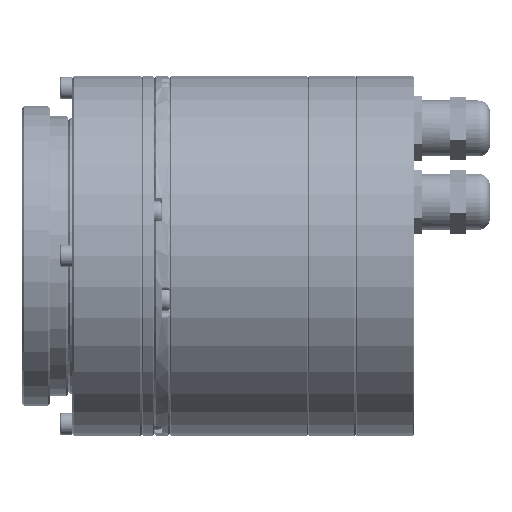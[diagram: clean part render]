
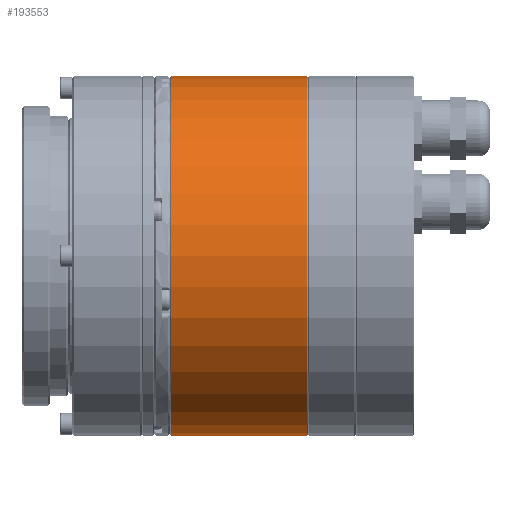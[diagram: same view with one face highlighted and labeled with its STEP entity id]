
A CAD part, left-side view. The second image highlights one B-rep face of the part: STEP entity #193553.
In plain terms, the highlighted cylindrical face has radius 45 mm (diameter 90 mm), a partial arc.
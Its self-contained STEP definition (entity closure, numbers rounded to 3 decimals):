
#10435 = VERTEX_POINT ( 'NONE', #149453 ) ;
#11006 = EDGE_CURVE ( 'NONE', #124256, #87586, #112534, .T. ) ;
#35856 = DIRECTION ( 'NONE',  ( -1., 0., 0. ) ) ;
#46078 = AXIS2_PLACEMENT_3D ( 'NONE', #71598, #157400, #115232 ) ;
#51801 = EDGE_CURVE ( 'NONE', #10435, #84917, #121729, .T. ) ;
#55392 = CARTESIAN_POINT ( 'NONE',  ( 34.2, 0., -45. ) ) ;
#55619 = DIRECTION ( 'NONE',  ( -1., 0., 0. ) ) ;
#55867 = EDGE_CURVE ( 'NONE', #84917, #87586, #105856, .T. ) ;
#59620 = VECTOR ( 'NONE', #257483, 1000. ) ;
#71598 = CARTESIAN_POINT ( 'NONE',  ( 0., 0., 0. ) ) ;
#82270 = CARTESIAN_POINT ( 'NONE',  ( 0., 0., 45. ) ) ;
#82608 = ORIENTED_EDGE ( 'NONE', *, *, #163342, .T. ) ;
#84917 = VERTEX_POINT ( 'NONE', #176226 ) ;
#87003 = VECTOR ( 'NONE', #55619, 1000. ) ;
#87586 = VERTEX_POINT ( 'NONE', #233118 ) ;
#105856 = CIRCLE ( 'NONE', #200071, 45. ) ;
#112534 = LINE ( 'NONE', #171640, #59620 ) ;
#115232 = DIRECTION ( 'NONE',  ( 0., 0., 1. ) ) ;
#121729 = LINE ( 'NONE', #82270, #87003 ) ;
#124256 = VERTEX_POINT ( 'NONE', #55392 ) ;
#147139 = EDGE_LOOP ( 'NONE', ( #241690, #82608, #260011, #204217 ) ) ;
#149453 = CARTESIAN_POINT ( 'NONE',  ( 34.2, 0., 45. ) ) ;
#155128 = DIRECTION ( 'NONE',  ( 0., 0., -1. ) ) ;
#157400 = DIRECTION ( 'NONE',  ( -1., 0., 0. ) ) ;
#163342 = EDGE_CURVE ( 'NONE', #124256, #10435, #199935, .T. ) ;
#171640 = CARTESIAN_POINT ( 'NONE',  ( 0., 0., -45. ) ) ;
#176226 = CARTESIAN_POINT ( 'NONE',  ( 0.3, 0., 45. ) ) ;
#181768 = AXIS2_PLACEMENT_3D ( 'NONE', #251054, #35856, #232716 ) ;
#193553 = ADVANCED_FACE ( 'NONE', ( #199655 ), #264347, .T. ) ;
#199655 = FACE_OUTER_BOUND ( 'NONE', #147139, .T. ) ;
#199935 = CIRCLE ( 'NONE', #181768, 45. ) ;
#200071 = AXIS2_PLACEMENT_3D ( 'NONE', #238177, #217048, #155128 ) ;
#204217 = ORIENTED_EDGE ( 'NONE', *, *, #55867, .T. ) ;
#217048 = DIRECTION ( 'NONE',  ( 1., 0., 0. ) ) ;
#232716 = DIRECTION ( 'NONE',  ( 0., 0., -1. ) ) ;
#233118 = CARTESIAN_POINT ( 'NONE',  ( 0.3, 0., -45. ) ) ;
#238177 = CARTESIAN_POINT ( 'NONE',  ( 0.3, 0., 0. ) ) ;
#241690 = ORIENTED_EDGE ( 'NONE', *, *, #11006, .F. ) ;
#251054 = CARTESIAN_POINT ( 'NONE',  ( 34.2, 0., 0. ) ) ;
#257483 = DIRECTION ( 'NONE',  ( -1., 0., 0. ) ) ;
#260011 = ORIENTED_EDGE ( 'NONE', *, *, #51801, .T. ) ;
#264347 = CYLINDRICAL_SURFACE ( 'NONE', #46078, 45. ) ;
